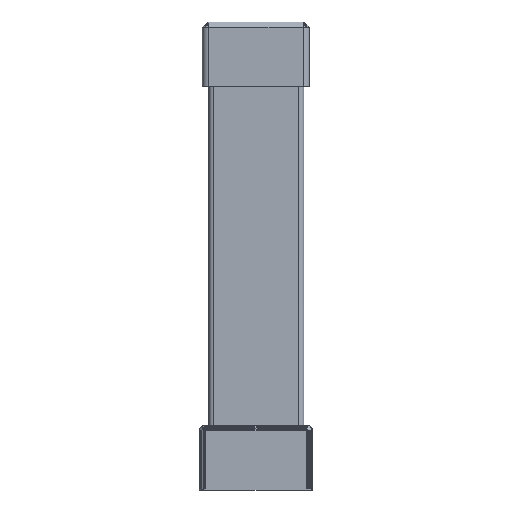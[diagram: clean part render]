
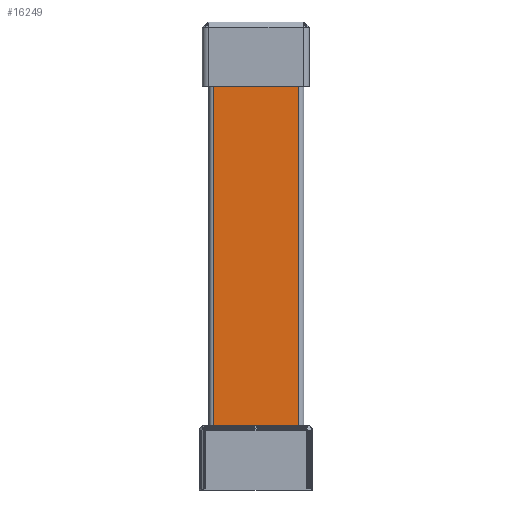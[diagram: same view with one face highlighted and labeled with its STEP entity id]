
A CAD part, left-side view. The second image highlights one B-rep face of the part: STEP entity #16249.
In plain terms, the highlighted planar face has unit normal (-1, 0, 0).
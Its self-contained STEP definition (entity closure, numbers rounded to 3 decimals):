
#4159 = PLANE('',#4160);
#4160 = AXIS2_PLACEMENT_3D('',#4161,#4162,#4163);
#4161 = CARTESIAN_POINT('',(2.569,27.967,
    25.4));
#4162 = DIRECTION('',(0.,0.,1.));
#4163 = DIRECTION('',(0.,1.,0.));
#6431 = VERTEX_POINT('',#6432);
#6432 = CARTESIAN_POINT('',(3.643,5.542,25.4
    ));
#6462 = CYLINDRICAL_SURFACE('',#6463,2.032);
#6463 = AXIS2_PLACEMENT_3D('',#6464,#6465,#6466);
#6464 = CARTESIAN_POINT('',(5.675,5.542,
    92.392));
#6465 = DIRECTION('',(0.,0.,1.));
#6466 = DIRECTION('',(0.707,0.707,-0.));
#6473 = EDGE_CURVE('',#6431,#6474,#6476,.T.);
#6474 = VERTEX_POINT('',#6475);
#6475 = CARTESIAN_POINT('',(3.643,39.07,
    25.4));
#6476 = SURFACE_CURVE('',#6477,(#6481,#6488),.PCURVE_S1.);
#6477 = LINE('',#6478,#6479);
#6478 = CARTESIAN_POINT('',(3.643,5.542,25.4
    ));
#6479 = VECTOR('',#6480,1.);
#6480 = DIRECTION('',(0.,1.,0.));
#6481 = PCURVE('',#4159,#6482);
#6482 = DEFINITIONAL_REPRESENTATION('',(#6483),#6487);
#6483 = LINE('',#6484,#6485);
#6484 = CARTESIAN_POINT('',(-22.425,-1.074));
#6485 = VECTOR('',#6486,1.);
#6486 = DIRECTION('',(1.,0.));
#6487 = ( GEOMETRIC_REPRESENTATION_CONTEXT(2) 
PARAMETRIC_REPRESENTATION_CONTEXT() REPRESENTATION_CONTEXT('2D SPACE',''
  ) );
#6488 = PCURVE('',#6489,#6494);
#6489 = PLANE('',#6490);
#6490 = AXIS2_PLACEMENT_3D('',#6491,#6492,#6493);
#6491 = CARTESIAN_POINT('',(3.643,22.306,
    92.392));
#6492 = DIRECTION('',(1.,0.,0.));
#6493 = DIRECTION('',(0.,0.,1.));
#6494 = DEFINITIONAL_REPRESENTATION('',(#6495),#6499);
#6495 = LINE('',#6496,#6497);
#6496 = CARTESIAN_POINT('',(-66.992,16.764));
#6497 = VECTOR('',#6498,1.);
#6498 = DIRECTION('',(0.,-1.));
#6499 = ( GEOMETRIC_REPRESENTATION_CONTEXT(2) 
PARAMETRIC_REPRESENTATION_CONTEXT() REPRESENTATION_CONTEXT('2D SPACE',''
  ) );
#6531 = CYLINDRICAL_SURFACE('',#6532,2.032);
#6532 = AXIS2_PLACEMENT_3D('',#6533,#6534,#6535);
#6533 = CARTESIAN_POINT('',(5.675,39.07,92.392
    ));
#6534 = DIRECTION('',(0.,0.,1.));
#6535 = DIRECTION('',(0.707,-0.707,0.));
#16162 = EDGE_CURVE('',#6474,#16163,#16165,.T.);
#16163 = VERTEX_POINT('',#16164);
#16164 = CARTESIAN_POINT('',(3.643,39.07,
    159.385));
#16165 = SURFACE_CURVE('',#16166,(#16170,#16177),.PCURVE_S1.);
#16166 = LINE('',#16167,#16168);
#16167 = CARTESIAN_POINT('',(3.643,39.07,
    25.4));
#16168 = VECTOR('',#16169,1.);
#16169 = DIRECTION('',(0.,0.,1.));
#16170 = PCURVE('',#6531,#16171);
#16171 = DEFINITIONAL_REPRESENTATION('',(#16172),#16176);
#16172 = LINE('',#16173,#16174);
#16173 = CARTESIAN_POINT('',(3.927,-66.992));
#16174 = VECTOR('',#16175,1.);
#16175 = DIRECTION('',(0.,1.));
#16176 = ( GEOMETRIC_REPRESENTATION_CONTEXT(2) 
PARAMETRIC_REPRESENTATION_CONTEXT() REPRESENTATION_CONTEXT('2D SPACE',''
  ) );
#16177 = PCURVE('',#6489,#16178);
#16178 = DEFINITIONAL_REPRESENTATION('',(#16179),#16183);
#16179 = LINE('',#16180,#16181);
#16180 = CARTESIAN_POINT('',(-66.992,-16.764));
#16181 = VECTOR('',#16182,1.);
#16182 = DIRECTION('',(1.,0.));
#16183 = ( GEOMETRIC_REPRESENTATION_CONTEXT(2) 
PARAMETRIC_REPRESENTATION_CONTEXT() REPRESENTATION_CONTEXT('2D SPACE',''
  ) );
#16208 = PLANE('',#16209);
#16209 = AXIS2_PLACEMENT_3D('',#16210,#16211,#16212);
#16210 = CARTESIAN_POINT('',(22.421,22.367,
    159.385));
#16211 = DIRECTION('',(0.,0.,1.));
#16212 = DIRECTION('',(0.,1.,0.));
#16249 = ADVANCED_FACE('',(#16250),#6489,.F.);
#16250 = FACE_BOUND('',#16251,.T.);
#16251 = EDGE_LOOP('',(#16252,#16253,#16254,#16277));
#16252 = ORIENTED_EDGE('',*,*,#16162,.F.);
#16253 = ORIENTED_EDGE('',*,*,#6473,.F.);
#16254 = ORIENTED_EDGE('',*,*,#16255,.T.);
#16255 = EDGE_CURVE('',#6431,#16256,#16258,.T.);
#16256 = VERTEX_POINT('',#16257);
#16257 = CARTESIAN_POINT('',(3.643,5.542,
    159.385));
#16258 = SURFACE_CURVE('',#16259,(#16263,#16270),.PCURVE_S1.);
#16259 = LINE('',#16260,#16261);
#16260 = CARTESIAN_POINT('',(3.643,5.542,
    25.4));
#16261 = VECTOR('',#16262,1.);
#16262 = DIRECTION('',(0.,0.,1.));
#16263 = PCURVE('',#6489,#16264);
#16264 = DEFINITIONAL_REPRESENTATION('',(#16265),#16269);
#16265 = LINE('',#16266,#16267);
#16266 = CARTESIAN_POINT('',(-66.992,16.764));
#16267 = VECTOR('',#16268,1.);
#16268 = DIRECTION('',(1.,0.));
#16269 = ( GEOMETRIC_REPRESENTATION_CONTEXT(2) 
PARAMETRIC_REPRESENTATION_CONTEXT() REPRESENTATION_CONTEXT('2D SPACE',''
  ) );
#16270 = PCURVE('',#6462,#16271);
#16271 = DEFINITIONAL_REPRESENTATION('',(#16272),#16276);
#16272 = LINE('',#16273,#16274);
#16273 = CARTESIAN_POINT('',(2.356,-66.992));
#16274 = VECTOR('',#16275,1.);
#16275 = DIRECTION('',(0.,1.));
#16276 = ( GEOMETRIC_REPRESENTATION_CONTEXT(2) 
PARAMETRIC_REPRESENTATION_CONTEXT() REPRESENTATION_CONTEXT('2D SPACE',''
  ) );
#16277 = ORIENTED_EDGE('',*,*,#16278,.T.);
#16278 = EDGE_CURVE('',#16256,#16163,#16279,.T.);
#16279 = SURFACE_CURVE('',#16280,(#16284,#16291),.PCURVE_S1.);
#16280 = LINE('',#16281,#16282);
#16281 = CARTESIAN_POINT('',(3.643,5.542,
    159.385));
#16282 = VECTOR('',#16283,1.);
#16283 = DIRECTION('',(0.,1.,0.));
#16284 = PCURVE('',#6489,#16285);
#16285 = DEFINITIONAL_REPRESENTATION('',(#16286),#16290);
#16286 = LINE('',#16287,#16288);
#16287 = CARTESIAN_POINT('',(66.992,16.764));
#16288 = VECTOR('',#16289,1.);
#16289 = DIRECTION('',(0.,-1.));
#16290 = ( GEOMETRIC_REPRESENTATION_CONTEXT(2) 
PARAMETRIC_REPRESENTATION_CONTEXT() REPRESENTATION_CONTEXT('2D SPACE',''
  ) );
#16291 = PCURVE('',#16208,#16292);
#16292 = DEFINITIONAL_REPRESENTATION('',(#16293),#16297);
#16293 = LINE('',#16294,#16295);
#16294 = CARTESIAN_POINT('',(-16.825,18.778));
#16295 = VECTOR('',#16296,1.);
#16296 = DIRECTION('',(1.,0.));
#16297 = ( GEOMETRIC_REPRESENTATION_CONTEXT(2) 
PARAMETRIC_REPRESENTATION_CONTEXT() REPRESENTATION_CONTEXT('2D SPACE',''
  ) );
